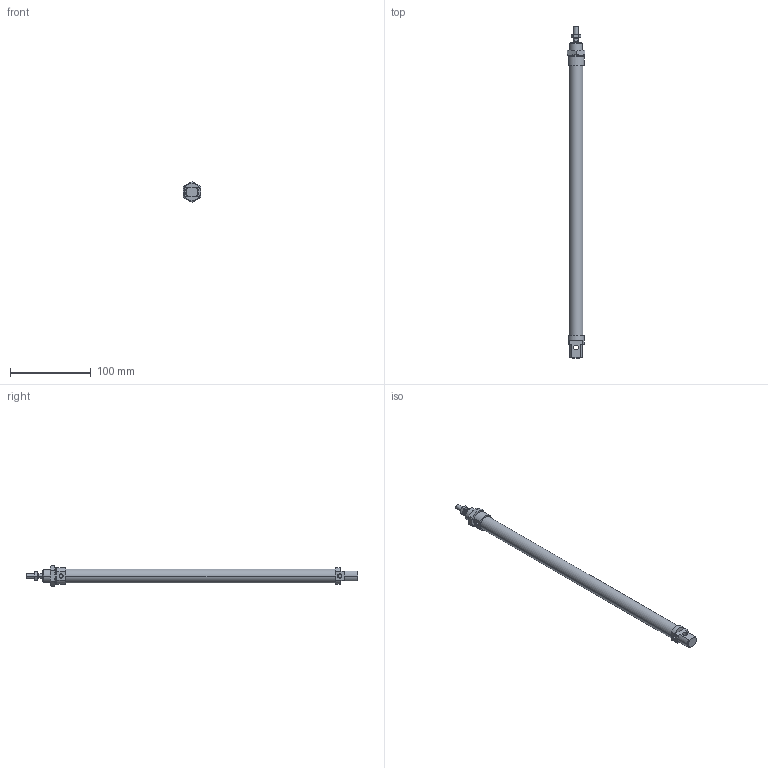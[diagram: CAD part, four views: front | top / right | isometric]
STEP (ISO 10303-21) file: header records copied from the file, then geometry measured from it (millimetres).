
FILE_DESCRIPTION((''),'2;1');
FILE_NAME('I:\DOC-EDP\Lib-3d\1200\CILINDRI\1280\1280_16_0300.stp','2003-04-07T15:06:13',('maffial1'),(''),'Autodesk Inventor (R) 6.0','Autodesk Inventor (R) 6.0','');
FILE_SCHEMA(('AUTOMOTIVE_DESIGN { 1 0 10303 214 1 1 1 1 }'));
Length unit declared in the file: millimetre
Products named in the file (5): 1280_16_0300; S1280_16_300; 1200_16_05; 1200_16_06; C1280_16_300
Assembly tree (4 placements, depth 2):
  1280_16_0300
    S1280_16_300
    1200_16_05
    1200_16_06
    C1280_16_300
Bounding box: 22 x 411 x 25.4 mm (x, y, z)
Volume: 92566.6 mm3; surface area: 36567.2 mm2
Topology: 4 solids, 4 shells, 121 faces, 268 edges, 162 vertices
Faces by surface type: cone 40, plane 39, cylinder 22, bspline 20
Entity records: 3653 total; most frequent: CARTESIAN_POINT 976, DIRECTION 556, ORIENTED_EDGE 536, EDGE_CURVE 268, AXIS2_PLACEMENT_3D 230, VERTEX_POINT 162, EDGE_LOOP 134, FACE_OUTER_BOUND 121
